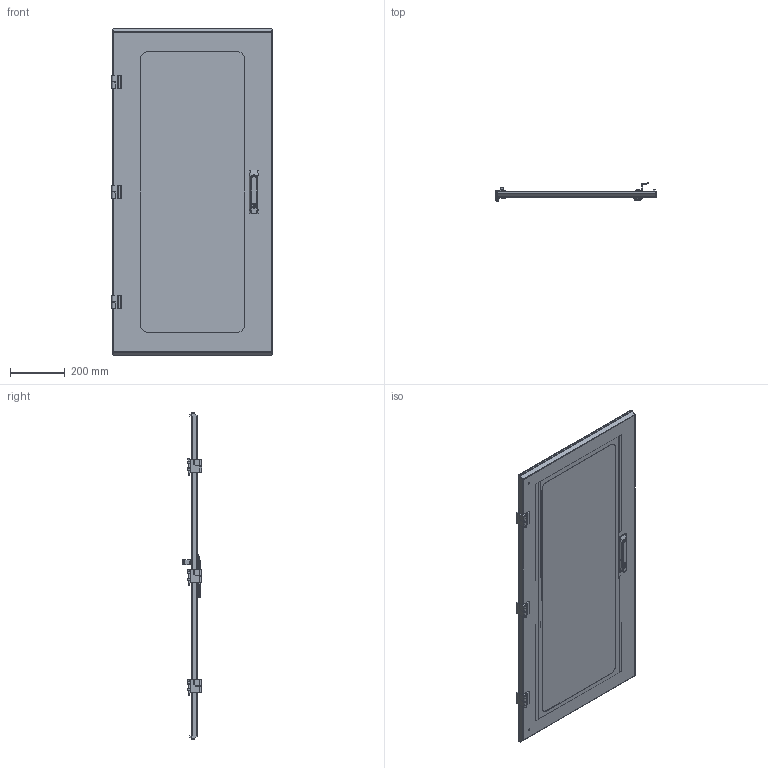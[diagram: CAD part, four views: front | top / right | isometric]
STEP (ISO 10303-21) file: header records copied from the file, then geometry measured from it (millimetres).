
FILE_DESCRIPTION(/* description */ ('Unknown'),/* implementation_level */ '2;1');
FILE_NAME(/* name */ 'C4D2442VBK1',/* time_stamp */ '2026-03-20T15:35:39-04:00',/* author */ ('Unknown'),/* organization */ ('Unknown'),/* preprocessor_version */ 'ST-DEVELOPER v18.104',/* originating_system */ 'Solid Edge',/* authorisation */ 'Unknown');
FILE_SCHEMA (('AUTOMOTIVE_DESIGN {1 0 10303 214 3 1 1}'));
Products named in the file (16): C4D2442V; BMP01631; COM57695-21; std26020; COM57699-21; COM57778-17; HNG14604; HNG14604-3; HNG14604-2; HNG14604-1; HNG14604-1A; HNG14604-1B; HNG14604-1C; LOC88025; COM57701
Assembly tree (24 placements, depth 4):
  C4D2442V
    BMP01631  x3
    COM57695-21
      COM57695-21
      std26020  x2
      COM57699-21
      COM57778-17  x4
    HNG14604  x3
      HNG14604-3
      HNG14604-2
      HNG14604-1
        HNG14604-1A
        HNG14604-1B
        HNG14604-1C
    LOC88025
    COM57701
Bounding box: 588.32 x 70.33 x 1195.4 mm (x, y, z)
Volume: 1451872.6 mm3; surface area: 1909319.2 mm2
Topology: 39 solids, 39 shells, 4318 faces, 11112 edges, 7114 vertices
Faces by surface type: plane 2708, cylinder 952, bspline 340, torus 131, sphere 113, cone 74
Full cylindrical faces by diameter (mm): 3.1 x3, 4.2 x2, 4.297 x3, 4.641 x1, 4.775 x2, 4.8 x1, 5 x3, 5.2 x1, 5.5 x2, 6 x9, 6.02 x3, 6.1 x3, 6.2 x12, 6.35 x2, 6.5 x1, 6.6 x1, 9.3 x1, 9.95 x12, 10 x3, 10.312 x6, 11 x1, 11.05 x1, 11.9 x1, 12 x6, 12.05 x1, 13.5 x1, 16.1 x1, 16.7 x1, 16.8 x1, 16.9 x1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
Entity records: 110643 total; most frequent: CARTESIAN_POINT 37372, ORIENTED_EDGE 15934, DIRECTION 13751, EDGE_CURVE 7967, VERTEX_POINT 5129, LINE 4721, VECTOR 4721, AXIS2_PLACEMENT_3D 4515
